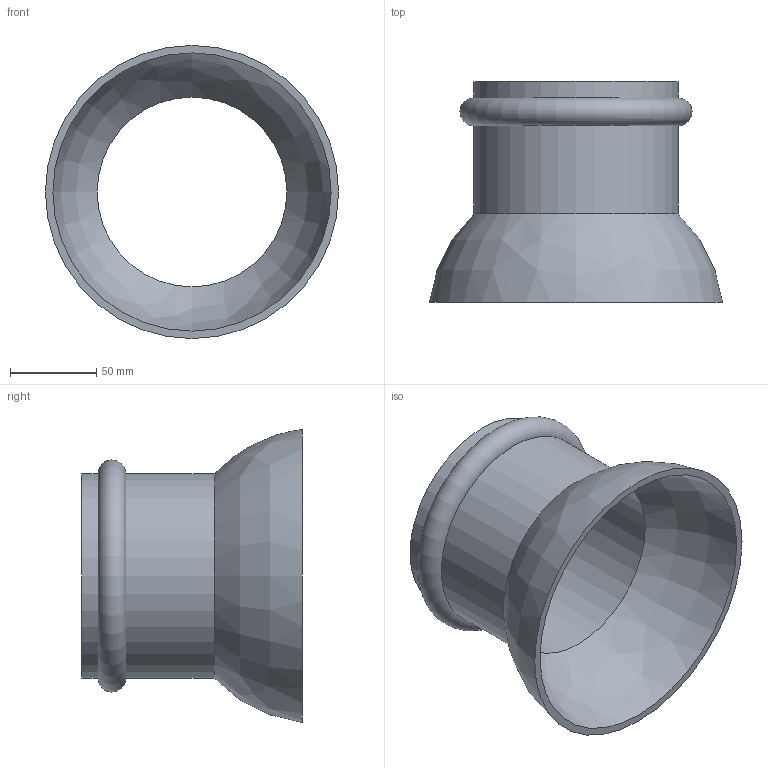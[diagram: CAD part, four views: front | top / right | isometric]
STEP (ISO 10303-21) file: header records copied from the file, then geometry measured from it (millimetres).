
FILE_DESCRIPTION( ( 'STEP AP214' ), '1' );
FILE_NAME( 'C:/Users/ilukic/Documents/ex/gebaudeentwasserung/pe/Geberit PE protecting cap/367.989.16.2.stp', '2020-03-26T18:42:19', ( '' ), ( '' ), ' ', 'PARTsolutions', ' ' );
FILE_SCHEMA( ( 'AUTOMOTIVE_DESIGN { 1 0 10303 214 1 1 1 1 }' ) );
Length unit declared in the file: millimetre
Products named in the file (1): _367.989.16.2
Bounding box: 170 x 128 x 170 mm (x, y, z)
Volume: 252887.9 mm3; surface area: 121279.1 mm2
Topology: 1 solids, 1 shells, 13 faces, 22 edges, 13 vertices
Faces by surface type: plane 4, cylinder 4, bspline 2, torus 2, cone 1
Full cylindrical faces by diameter (mm): 110 x2, 118.6 x2
Entity records: 442 total; most frequent: CARTESIAN_POINT 96, DIRECTION 50, EDGE_LOOP 26, ORIENTED_EDGE 26, AXIS2_PLACEMENT_3D 25, FACE_OUTER_BOUND 21, VERTEX_POINT 15, STYLED_ITEM 13
